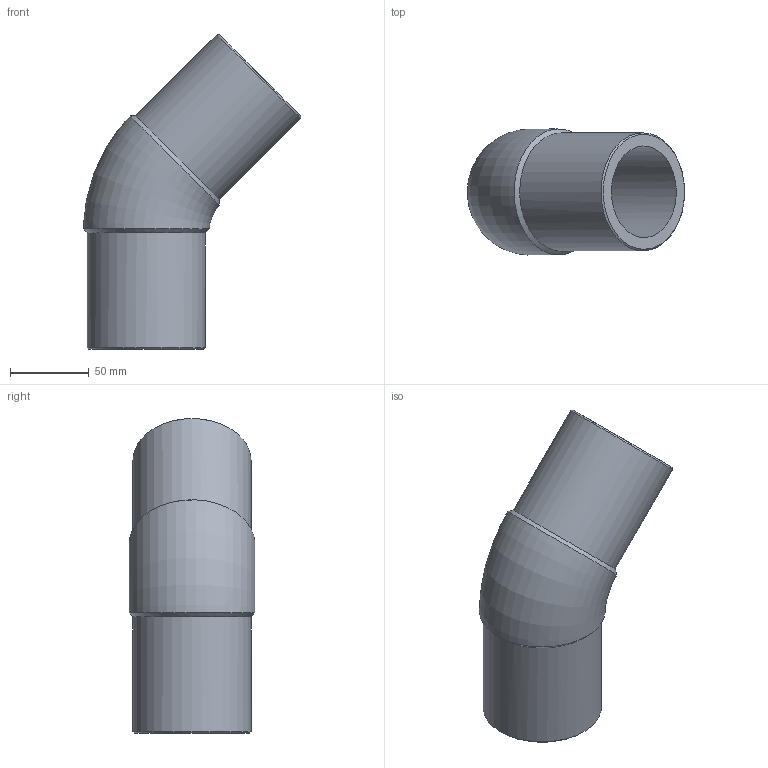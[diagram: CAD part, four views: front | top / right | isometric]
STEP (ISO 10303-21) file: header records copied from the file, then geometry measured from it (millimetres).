
FILE_DESCRIPTION(/* description */ ('Unknown'),/* implementation_level */ '2;1');
FILE_NAME(/* name */ 'G4P075G',/* time_stamp */ '2022-01-21T09:09:35+01:00',/* author */ ('Unknown'),/* organization */ ('Unknown'),/* preprocessor_version */ 'ST-DEVELOPER v18.1',/* originating_system */ 'Solid Edge',/* authorisation */ 'Unknown');
FILE_SCHEMA (('AUTOMOTIVE_DESIGN {1 0 10303 214 3 1 1}'));
Length unit declared in the file: millimetre
Products named in the file (1): G4P075G
Bounding box: 137.84 x 79.95 x 199.93 mm (x, y, z)
Volume: 386524.8 mm3; surface area: 88732.7 mm2
Topology: 1 solids, 1 shells, 12 faces, 30 edges, 20 vertices
Faces by surface type: cone 4, cylinder 4, plane 2, torus 2
Full cylindrical faces by diameter (mm): 58.2 x2, 75 x2
Entity records: 428 total; most frequent: CARTESIAN_POINT 168, DIRECTION 48, ORIENTED_EDGE 34, AXIS2_PLACEMENT_3D 24, EDGE_LOOP 23, FACE_BOUND 23, EDGE_CURVE 17, VERTEX_POINT 16
